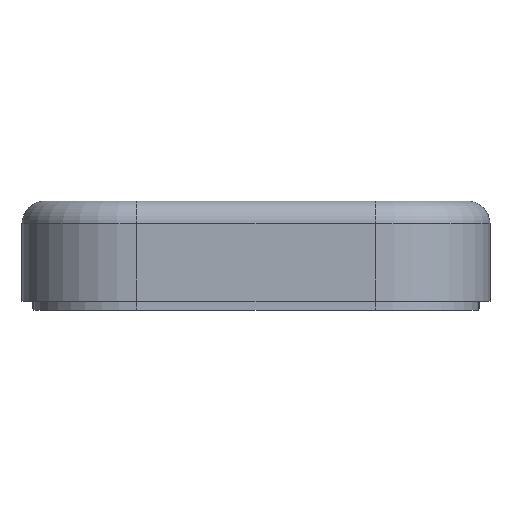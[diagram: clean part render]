
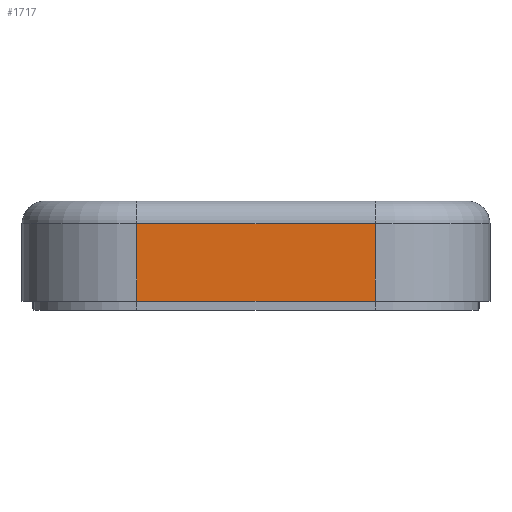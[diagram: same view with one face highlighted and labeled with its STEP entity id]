
A CAD part, front view. The second image highlights one B-rep face of the part: STEP entity #1717.
In plain terms, the highlighted planar face has unit normal (0, -1, 0).
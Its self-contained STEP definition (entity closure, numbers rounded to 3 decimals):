
#44 = CYLINDRICAL_SURFACE('',#45,21.2);
#45 = AXIS2_PLACEMENT_3D('',#46,#47,#48);
#46 = CARTESIAN_POINT('',(-22.,-46.,-11.95));
#47 = DIRECTION('',(0.,0.,1.));
#48 = DIRECTION('',(-1.,-0.,0.));
#72 = PLANE('',#73);
#73 = AXIS2_PLACEMENT_3D('',#74,#75,#76);
#74 = CARTESIAN_POINT('',(-90.,-110.,-7.5));
#75 = DIRECTION('',(0.,0.,1.));
#76 = DIRECTION('',(1.,0.,-0.));
#366 = VERTEX_POINT('',#367);
#367 = CARTESIAN_POINT('',(-22.,-67.2,-7.5));
#389 = EDGE_CURVE('',#366,#390,#392,.T.);
#390 = VERTEX_POINT('',#391);
#391 = CARTESIAN_POINT('',(-22.,-67.2,6.75));
#392 = SURFACE_CURVE('',#393,(#397,#404),.PCURVE_S1.);
#393 = LINE('',#394,#395);
#394 = CARTESIAN_POINT('',(-22.,-67.2,-11.95));
#395 = VECTOR('',#396,1.);
#396 = DIRECTION('',(0.,0.,1.));
#397 = PCURVE('',#44,#398);
#398 = DEFINITIONAL_REPRESENTATION('',(#399),#403);
#399 = LINE('',#400,#401);
#400 = CARTESIAN_POINT('',(1.571,0.));
#401 = VECTOR('',#402,1.);
#402 = DIRECTION('',(0.,1.));
#403 = ( GEOMETRIC_REPRESENTATION_CONTEXT(2) 
PARAMETRIC_REPRESENTATION_CONTEXT() REPRESENTATION_CONTEXT('2D SPACE',''
  ) );
#404 = PCURVE('',#405,#410);
#405 = PLANE('',#406);
#406 = AXIS2_PLACEMENT_3D('',#407,#408,#409);
#407 = CARTESIAN_POINT('',(-43.2,-67.2,-11.95));
#408 = DIRECTION('',(0.,1.,0.));
#409 = DIRECTION('',(0.,-0.,1.));
#410 = DEFINITIONAL_REPRESENTATION('',(#411),#415);
#411 = LINE('',#412,#413);
#412 = CARTESIAN_POINT('',(0.,21.2));
#413 = VECTOR('',#414,1.);
#414 = DIRECTION('',(1.,0.));
#415 = ( GEOMETRIC_REPRESENTATION_CONTEXT(2) 
PARAMETRIC_REPRESENTATION_CONTEXT() REPRESENTATION_CONTEXT('2D SPACE',''
  ) );
#501 = EDGE_CURVE('',#366,#502,#504,.T.);
#502 = VERTEX_POINT('',#503);
#503 = CARTESIAN_POINT('',(22.,-67.2,-7.5));
#504 = SURFACE_CURVE('',#505,(#509,#516),.PCURVE_S1.);
#505 = LINE('',#506,#507);
#506 = CARTESIAN_POINT('',(-66.6,-67.2,-7.5));
#507 = VECTOR('',#508,1.);
#508 = DIRECTION('',(1.,0.,0.));
#509 = PCURVE('',#72,#510);
#510 = DEFINITIONAL_REPRESENTATION('',(#511),#515);
#511 = LINE('',#512,#513);
#512 = CARTESIAN_POINT('',(23.4,42.8));
#513 = VECTOR('',#514,1.);
#514 = DIRECTION('',(1.,0.));
#515 = ( GEOMETRIC_REPRESENTATION_CONTEXT(2) 
PARAMETRIC_REPRESENTATION_CONTEXT() REPRESENTATION_CONTEXT('2D SPACE',''
  ) );
#516 = PCURVE('',#405,#517);
#517 = DEFINITIONAL_REPRESENTATION('',(#518),#522);
#518 = LINE('',#519,#520);
#519 = CARTESIAN_POINT('',(4.45,-23.4));
#520 = VECTOR('',#521,1.);
#521 = DIRECTION('',(0.,1.));
#522 = ( GEOMETRIC_REPRESENTATION_CONTEXT(2) 
PARAMETRIC_REPRESENTATION_CONTEXT() REPRESENTATION_CONTEXT('2D SPACE',''
  ) );
#541 = CYLINDRICAL_SURFACE('',#542,21.2);
#542 = AXIS2_PLACEMENT_3D('',#543,#544,#545);
#543 = CARTESIAN_POINT('',(22.,-46.,-11.95));
#544 = DIRECTION('',(0.,0.,1.));
#545 = DIRECTION('',(1.,0.,-0.));
#1717 = ADVANCED_FACE('',(#1718),#405,.F.);
#1718 = FACE_BOUND('',#1719,.F.);
#1719 = EDGE_LOOP('',(#1720,#1721,#1722,#1750));
#1720 = ORIENTED_EDGE('',*,*,#501,.F.);
#1721 = ORIENTED_EDGE('',*,*,#389,.T.);
#1722 = ORIENTED_EDGE('',*,*,#1723,.F.);
#1723 = EDGE_CURVE('',#1724,#390,#1726,.T.);
#1724 = VERTEX_POINT('',#1725);
#1725 = CARTESIAN_POINT('',(22.,-67.2,6.75));
#1726 = SURFACE_CURVE('',#1727,(#1731,#1738),.PCURVE_S1.);
#1727 = LINE('',#1728,#1729);
#1728 = CARTESIAN_POINT('',(22.,-67.2,6.75));
#1729 = VECTOR('',#1730,1.);
#1730 = DIRECTION('',(-1.,-0.,-0.));
#1731 = PCURVE('',#405,#1732);
#1732 = DEFINITIONAL_REPRESENTATION('',(#1733),#1737);
#1733 = LINE('',#1734,#1735);
#1734 = CARTESIAN_POINT('',(18.7,65.2));
#1735 = VECTOR('',#1736,1.);
#1736 = DIRECTION('',(0.,-1.));
#1737 = ( GEOMETRIC_REPRESENTATION_CONTEXT(2) 
PARAMETRIC_REPRESENTATION_CONTEXT() REPRESENTATION_CONTEXT('2D SPACE',''
  ) );
#1738 = PCURVE('',#1739,#1744);
#1739 = CYLINDRICAL_SURFACE('',#1740,4.2);
#1740 = AXIS2_PLACEMENT_3D('',#1741,#1742,#1743);
#1741 = CARTESIAN_POINT('',(22.,-63.,6.75));
#1742 = DIRECTION('',(-1.,-0.,-0.));
#1743 = DIRECTION('',(0.,-1.,0.));
#1744 = DEFINITIONAL_REPRESENTATION('',(#1745),#1749);
#1745 = LINE('',#1746,#1747);
#1746 = CARTESIAN_POINT('',(0.,0.));
#1747 = VECTOR('',#1748,1.);
#1748 = DIRECTION('',(0.,1.));
#1749 = ( GEOMETRIC_REPRESENTATION_CONTEXT(2) 
PARAMETRIC_REPRESENTATION_CONTEXT() REPRESENTATION_CONTEXT('2D SPACE',''
  ) );
#1750 = ORIENTED_EDGE('',*,*,#1751,.F.);
#1751 = EDGE_CURVE('',#502,#1724,#1752,.T.);
#1752 = SURFACE_CURVE('',#1753,(#1757,#1764),.PCURVE_S1.);
#1753 = LINE('',#1754,#1755);
#1754 = CARTESIAN_POINT('',(22.,-67.2,-11.95));
#1755 = VECTOR('',#1756,1.);
#1756 = DIRECTION('',(0.,0.,1.));
#1757 = PCURVE('',#405,#1758);
#1758 = DEFINITIONAL_REPRESENTATION('',(#1759),#1763);
#1759 = LINE('',#1760,#1761);
#1760 = CARTESIAN_POINT('',(0.,65.2));
#1761 = VECTOR('',#1762,1.);
#1762 = DIRECTION('',(1.,0.));
#1763 = ( GEOMETRIC_REPRESENTATION_CONTEXT(2) 
PARAMETRIC_REPRESENTATION_CONTEXT() REPRESENTATION_CONTEXT('2D SPACE',''
  ) );
#1764 = PCURVE('',#541,#1765);
#1765 = DEFINITIONAL_REPRESENTATION('',(#1766),#1770);
#1766 = LINE('',#1767,#1768);
#1767 = CARTESIAN_POINT('',(4.712,0.));
#1768 = VECTOR('',#1769,1.);
#1769 = DIRECTION('',(-0.,1.));
#1770 = ( GEOMETRIC_REPRESENTATION_CONTEXT(2) 
PARAMETRIC_REPRESENTATION_CONTEXT() REPRESENTATION_CONTEXT('2D SPACE',''
  ) );
